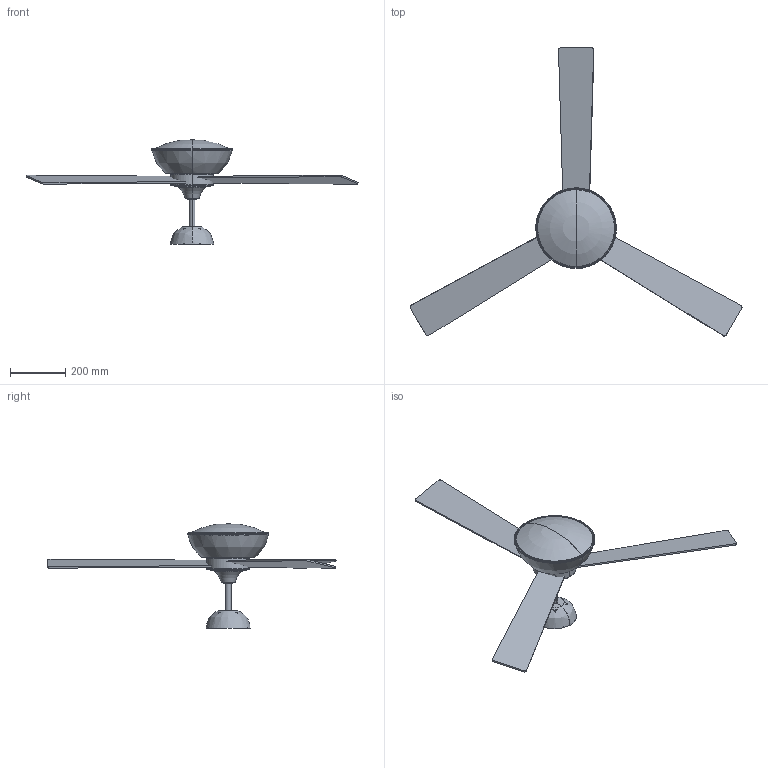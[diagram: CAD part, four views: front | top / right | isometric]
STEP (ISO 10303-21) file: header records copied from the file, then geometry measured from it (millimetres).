
FILE_DESCRIPTION(/* description */ (''),/* implementation_level */ '2;1');
FILE_NAME(/* name */ 'C:\Users\francosartori\Documents\Modelos\01_Digitalizados\0_RODAS\03_Publicación\33522 - Vista 3D - {3D}.stp',/* time_stamp */ '2020-07-03T11:45:43+02:00',/* author */ ('FrancoSartori'),/* organization */ (''),/* preprocessor_version */ 'ST-DEVELOPER v18.1',/* originating_system */ 'AutoCAD Mechanical',/* authorisation */ '');
FILE_SCHEMA (('AUTOMOTIVE_DESIGN { 1 0 10303 214 3 1 1 }'));
Length unit declared in the file: millimetre
Products named in the file (2): Product; 33522_33523_RODAS - RODAS-463196-_3D_
Assembly tree (1 placements, depth 2):
  Product
    33522_33523_RODAS - RODAS-463196-_3D_
Bounding box: 1201.66 x 1043.24 x 377.53 mm (x, y, z)
Volume: 1722780.6 mm3; surface area: 1183327.7 mm2
Topology: 7 solids, 7 shells, 224 faces, 574 edges, 360 vertices
Faces by surface type: cylinder 91, plane 79, torus 42, bspline 8, sphere 4
Entity records: 9764 total; most frequent: CARTESIAN_POINT 4489, ORIENTED_EDGE 1148, DIRECTION 992, EDGE_CURVE 574, AXIS2_PLACEMENT_3D 391, VERTEX_POINT 360, EDGE_LOOP 254, FACE_OUTER_BOUND 224
